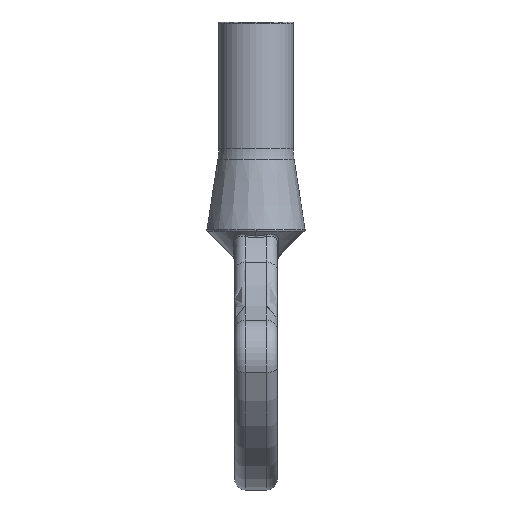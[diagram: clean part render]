
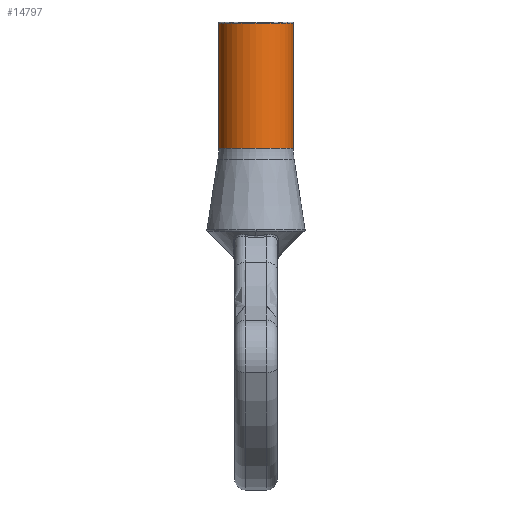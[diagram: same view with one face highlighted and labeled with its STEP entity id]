
A CAD part, front view. The second image highlights one B-rep face of the part: STEP entity #14797.
In plain terms, the highlighted cylindrical face has radius 5.225 mm (diameter 10.45 mm), a partial arc.
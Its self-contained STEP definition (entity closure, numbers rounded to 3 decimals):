
#22 = CARTESIAN_POINT ( 'NONE',  ( -5.225, 0., 0.774 ) ) ;
#765 = CIRCLE ( 'NONE', #5242, 5.225 ) ;
#1199 = DIRECTION ( 'NONE',  ( 0., 0., 1. ) ) ;
#3545 = DIRECTION ( 'NONE',  ( 0., 0., -1. ) ) ;
#3648 = EDGE_LOOP ( 'NONE', ( #14751, #17629, #18762, #5494 ) ) ;
#3972 = VERTEX_POINT ( 'NONE', #6002 ) ;
#4229 = EDGE_CURVE ( 'NONE', #3972, #11491, #9643, .T. ) ;
#4531 = DIRECTION ( 'NONE',  ( 1., 0., 0. ) ) ;
#5242 = AXIS2_PLACEMENT_3D ( 'NONE', #7643, #1199, #11240 ) ;
#5494 = ORIENTED_EDGE ( 'NONE', *, *, #8736, .T. ) ;
#6002 = CARTESIAN_POINT ( 'NONE',  ( 5.225, 0., 18.3 ) ) ;
#7643 = CARTESIAN_POINT ( 'NONE',  ( 0., 0., 0.774 ) ) ;
#8228 = DIRECTION ( 'NONE',  ( -1., 0., 0. ) ) ;
#8341 = VECTOR ( 'NONE', #17336, 1000. ) ;
#8545 = EDGE_CURVE ( 'NONE', #19235, #19175, #14847, .T. ) ;
#8736 = EDGE_CURVE ( 'NONE', #19175, #11491, #765, .T. ) ;
#9303 = EDGE_CURVE ( 'NONE', #3972, #19235, #13287, .T. ) ;
#9643 = LINE ( 'NONE', #20529, #8341 ) ;
#9834 = AXIS2_PLACEMENT_3D ( 'NONE', #9849, #18270, #8228 ) ;
#9849 = CARTESIAN_POINT ( 'NONE',  ( 0., 0., 0. ) ) ;
#10142 = VECTOR ( 'NONE', #3545, 1000. ) ;
#11240 = DIRECTION ( 'NONE',  ( -1., 0., 0. ) ) ;
#11491 = VERTEX_POINT ( 'NONE', #20303 ) ;
#13287 = CIRCLE ( 'NONE', #15582, 5.225 ) ;
#13696 = CARTESIAN_POINT ( 'NONE',  ( -5.225, 0., 0. ) ) ;
#14517 = CARTESIAN_POINT ( 'NONE',  ( 0., 0., 18.3 ) ) ;
#14751 = ORIENTED_EDGE ( 'NONE', *, *, #4229, .F. ) ;
#14797 = ADVANCED_FACE ( 'NONE', ( #20052 ), #15606, .T. ) ;
#14847 = LINE ( 'NONE', #13696, #10142 ) ;
#15278 = CARTESIAN_POINT ( 'NONE',  ( -5.225, 0., 18.3 ) ) ;
#15582 = AXIS2_PLACEMENT_3D ( 'NONE', #14517, #17874, #4531 ) ;
#15606 = CYLINDRICAL_SURFACE ( 'NONE', #9834, 5.225 ) ;
#17336 = DIRECTION ( 'NONE',  ( 0., 0., -1. ) ) ;
#17629 = ORIENTED_EDGE ( 'NONE', *, *, #9303, .T. ) ;
#17874 = DIRECTION ( 'NONE',  ( 0., 0., -1. ) ) ;
#18270 = DIRECTION ( 'NONE',  ( 0., 0., -1. ) ) ;
#18762 = ORIENTED_EDGE ( 'NONE', *, *, #8545, .T. ) ;
#19175 = VERTEX_POINT ( 'NONE', #22 ) ;
#19235 = VERTEX_POINT ( 'NONE', #15278 ) ;
#20052 = FACE_OUTER_BOUND ( 'NONE', #3648, .T. ) ;
#20303 = CARTESIAN_POINT ( 'NONE',  ( 5.225, 0., 0.774 ) ) ;
#20529 = CARTESIAN_POINT ( 'NONE',  ( 5.225, 0., 0. ) ) ;
